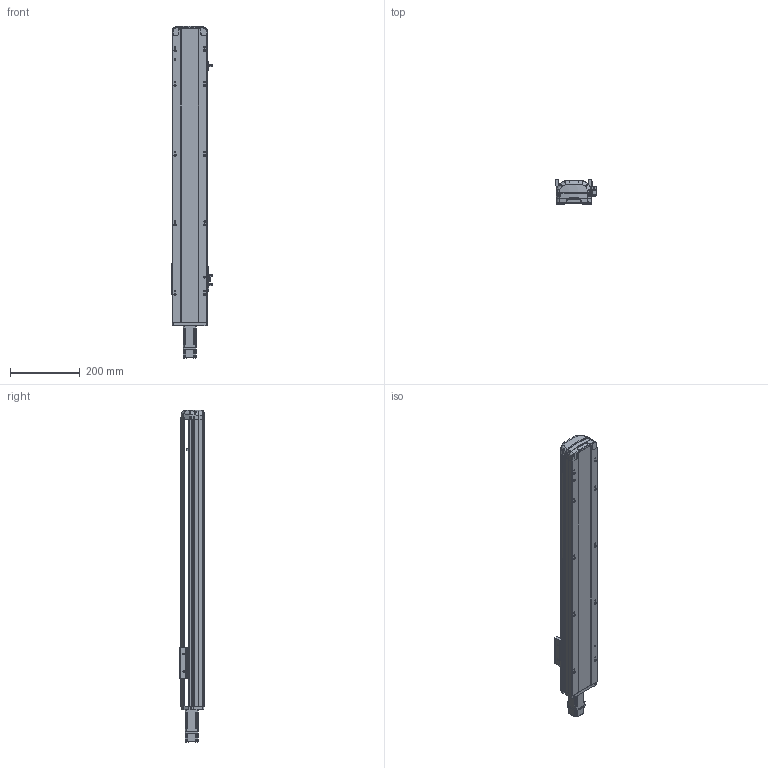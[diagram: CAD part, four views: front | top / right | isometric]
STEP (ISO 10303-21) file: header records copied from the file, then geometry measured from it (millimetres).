
FILE_DESCRIPTION (( 'STEP AP214' ), '1' );
FILE_NAME ('RTH10-XX-600-E-M10-C4.STEP', '2025-10-25T05:24:45', ( 'Microsoft' ), ( 'Microsoft' ), 'SwSTEP 2.0', 'SolidWorks 2018', '' );
FILE_SCHEMA (( 'AUTOMOTIVE_DESIGN' ));
Length unit declared in the file: millimetre
Products named in the file (9): N_RTH12-E-007P-奻裔^RTH10-XX-XX-E-M10-C4; N_RTH13-L-012覜茼え俋离^RTH10-XX-XX-E-M10-C4; N_P10^RTH10-XX-XX-E-M10-C4; N_RTH12-E-011P-臏倰第菁釱^RTH10-XX-XX-E-M10-C4; N_RTH12-GY-004-賑釱^RTH10-XX-XX-E-M10-C4; N_RTH12-E-008-M10萇儂啣^RTH10-XX-XX-E-M10-C4; N_RTH12-GY-001P^RTH10-XX-XX-E-M10-C4; N_OMRON EE-SX672 传感器^RTH10-XX-XX-E-M10-C4; RTH10-XX-600-E-M10-C4
Assembly tree (10 placements, depth 2):
  RTH10-XX-600-E-M10-C4
    N_RTH12-E-011P-臏倰第菁釱^RTH10-XX-XX-E-M10-C4
    N_RTH13-L-012覜茼え俋离^RTH10-XX-XX-E-M10-C4
    N_OMRON EE-SX672 传感器^RTH10-XX-XX-E-M10-C4  x3
    N_P10^RTH10-XX-XX-E-M10-C4
    N_RTH12-E-007P-奻裔^RTH10-XX-XX-E-M10-C4
    N_RTH12-E-008-M10萇儂啣^RTH10-XX-XX-E-M10-C4
    N_RTH12-GY-001P^RTH10-XX-XX-E-M10-C4
    N_RTH12-GY-004-賑釱^RTH10-XX-XX-E-M10-C4
Bounding box: 116.5 x 70 x 953.17 mm (x, y, z)
Volume: 3456533.6 mm3; surface area: 554875.9 mm2
Topology: 9 solids, 11 shells, 1952 faces, 5431 edges, 3562 vertices
Faces by surface type: plane 972, cylinder 473, bspline 472, cone 33, torus 2
Entity records: 58639 total; most frequent: CARTESIAN_POINT 23254, ORIENTED_EDGE 7942, DIRECTION 6115, EDGE_CURVE 3977, VERTEX_POINT 2606, LINE 2101, VECTOR 2101, AXIS2_PLACEMENT_3D 2007
